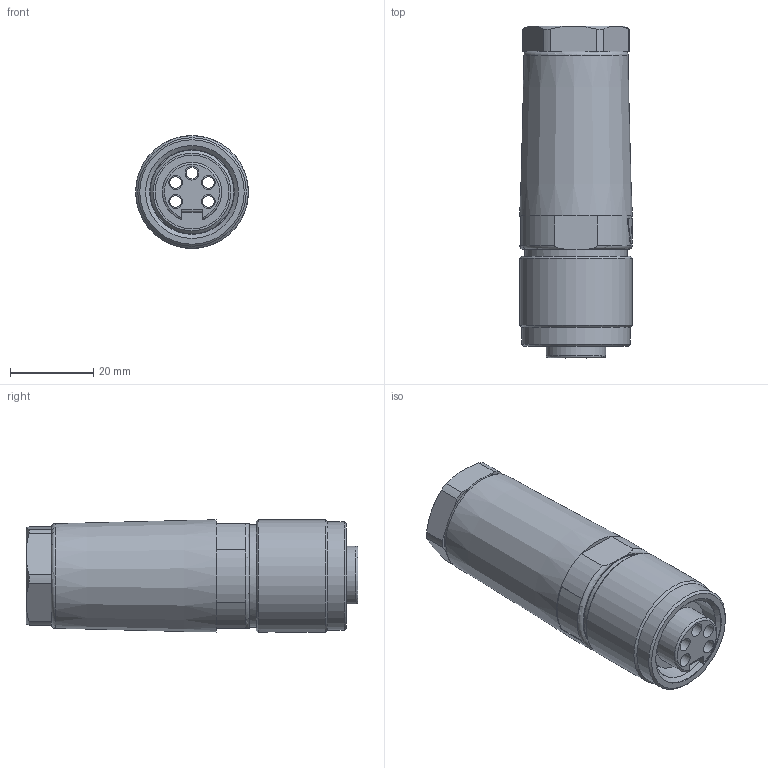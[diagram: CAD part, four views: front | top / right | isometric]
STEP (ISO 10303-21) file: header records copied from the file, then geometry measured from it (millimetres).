
FILE_DESCRIPTION( ( 'Unknown' ), '1' );
FILE_NAME( 'C:/Dokumente und Einstellungen/EXE03231/Desktop/Hüllmodelle_Knipp/RKC50_16_HUELLMODELL.stp', 'Unknown', ( 'Unknown' ), ( 'Unknown' ), 'PSStep 10.1', 'Unknown', ' ' );
FILE_SCHEMA( ( 'AUTOMOTIVE_DESIGN { 1 0 10303 214 1 1 1 1 }' ) );
Length unit declared in the file: millimetre
Products named in the file (12): _0_1_000047586DNR
Bounding box: 27 x 79.5 x 27 mm (x, y, z)
Volume: 20935.1 mm3; surface area: 16528.1 mm2
Topology: 12 solids, 14 shells, 575 faces, 1505 edges, 978 vertices
Faces by surface type: plane 423, cylinder 98, cone 36, torus 12, extrusion 6
Full cylindrical faces by diameter (mm): 1.786 x1, 2 x1, 3.35 x5, 3.4 x1, 3.5 x3, 13.5 x1, 13.55 x1, 15.5 x2, 17.7 x1, 20 x2, 20.2 x1, 20.262 x1, 20.917 x1, 21.16 x1, 22 x1, 22.2 x1, 22.225 x1, 22.5 x1, 22.7 x1, 24.5 x1, 24.85 x1, 26 x1, 27 x1
Entity records: 24236 total; most frequent: CARTESIAN_POINT 5405, DIRECTION 2886, ORIENTED_EDGE 2850, EDGE_CURVE 1425, VECTOR 1042, LINE 1036, VERTEX_POINT 954, AXIS2_PLACEMENT_3D 922
